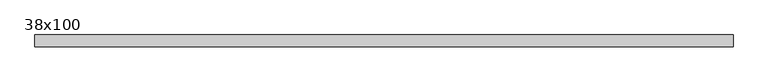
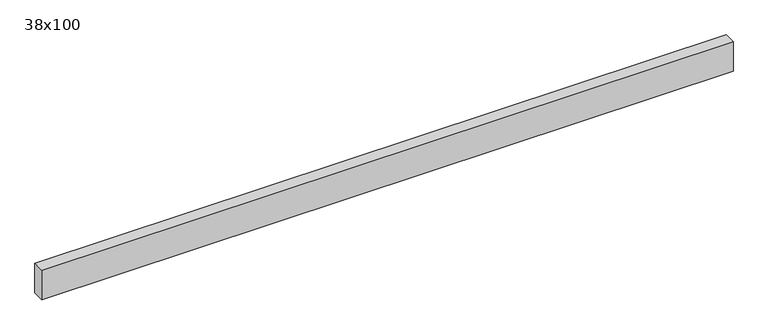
"""IFC4 building model written with IfcOpenShell, lengths in millimetres: beam geometry, Poutre - Bois de construction de dimensions courantes : 38x100."""

from ifc_helpers import new_model, si_unit, frame, origin, place, context, project, spatial, polyline, outline, extrude, source, transform, mapped, element, save


def beam_38x100_587339d5(model_context):
    return source(origin(), model_context, "Body", "SweptSolid", [
        extrude(outline(polyline([(1124.0, 19.05), (1124.0, -19.05), (-1089.0, -19.05), (-1089.0, 19.05), (1124.0, 19.05)])), frame((0.0, 0.0, -50.0), z_axis=(0.0, 0.0, 1.0), x_axis=(1.0, 0.0, 0.0)), (0.0, 0.0, 1.0), 100.0),
    ])


if __name__ == "__main__":
    model = new_model("IFC4")
    model_context = context("Model", 3, world=origin())
    ifc_project = project(units=[si_unit("LENGTHUNIT", "METRE", prefix="MILLI")], contexts=[model_context])
    site = spatial("IfcSite", under=ifc_project)
    building = spatial("IfcBuilding", under=site)
    placement = place(None, origin())
    beam_38x100_shape = beam_38x100_587339d5(model_context)
    element("IfcBeam", 1, ObjectType="Poutre - Bois de construction de dimensions courantes : 38x100", at=placement, inside=building, context=model_context, shape_type="MappedRepresentation", body=[
        mapped(beam_38x100_shape, transform((0.0, 0.0, 0.0), x_axis=(1.0, 0.0, 0.0), y_axis=(0.0, 1.0, 0.0), z_axis=(0.0, 0.0, 1.0))),
    ])
    save(model, "model.ifc")
